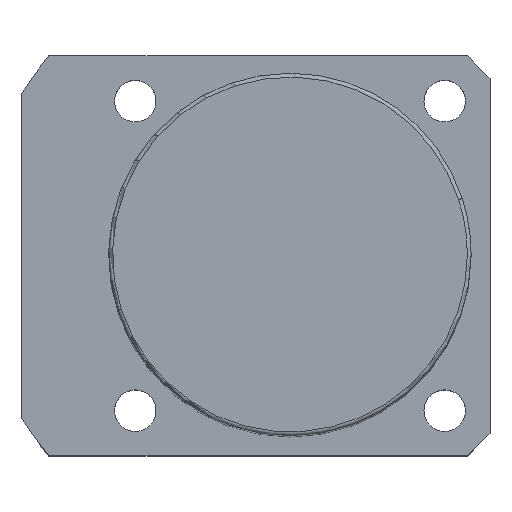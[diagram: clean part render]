
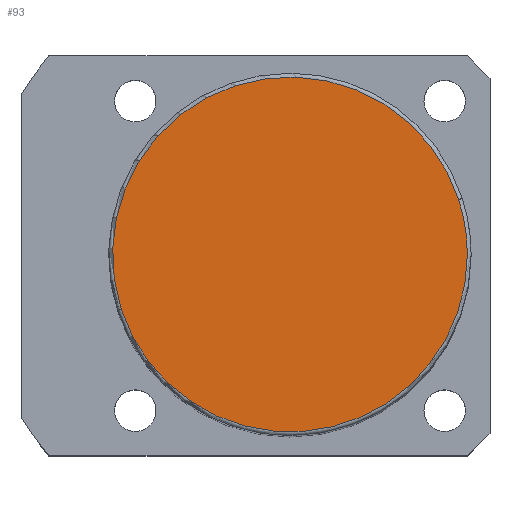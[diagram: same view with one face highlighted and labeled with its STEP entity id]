
A CAD part, top view. The second image highlights one B-rep face of the part: STEP entity #93.
In plain terms, the highlighted planar face has unit normal (0, 0, 1).
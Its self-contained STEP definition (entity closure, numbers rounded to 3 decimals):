
#16=CARTESIAN_POINT('',(22.35,7.262,119.0));
#17=VERTEX_POINT('',#16);
#45=CARTESIAN_POINT('',(-22.35,-7.262,119.0));
#46=VERTEX_POINT('',#45);
#54=CARTESIAN_POINT('',(0.0,0.0,119.0));
#55=DIRECTION('',(0.0,0.0,1.0));
#56=DIRECTION('',(1.0,0.0,0.0));
#57=AXIS2_PLACEMENT_3D('',#54,#55,#56);
#58=CIRCLE('',#57,23.5);
#59=EDGE_CURVE('no 890',#17,#46,#58,.T.);
#69=CARTESIAN_POINT('',(23.5,0.0,119.0));
#70=VERTEX_POINT('',#69);
#71=CARTESIAN_POINT('',(0.0,0.0,119.0));
#72=DIRECTION('',(0.0,0.0,1.0));
#73=DIRECTION('',(1.0,0.0,0.0));
#74=AXIS2_PLACEMENT_3D('',#71,#72,#73);
#75=CIRCLE('',#74,23.5);
#76=EDGE_CURVE('no 899',#70,#17,#75,.T.);
#77=ORIENTED_EDGE('',*,*,#76,.T.);
#78=ORIENTED_EDGE('',*,*,#59,.T.);
#79=CARTESIAN_POINT('',(0.0,0.0,119.0));
#80=DIRECTION('',(0.0,0.0,1.0));
#81=DIRECTION('',(1.0,0.0,0.0));
#82=AXIS2_PLACEMENT_3D('',#79,#80,#81);
#83=CIRCLE('',#82,23.5);
#84=EDGE_CURVE('no 905',#46,#70,#83,.T.);
#85=ORIENTED_EDGE('',*,*,#84,.T.);
#86=EDGE_LOOP('',(#77,#78,#85));
#87=FACE_OUTER_BOUND('',#86,.T.);
#88=CARTESIAN_POINT('',(0.0,0.0,119.0));
#89=DIRECTION('',(0.0,0.0,1.0));
#90=DIRECTION('',(1.0,0.0,0.0));
#91=AXIS2_PLACEMENT_3D('',#88,#89,#90);
#92=PLANE('',#91);
#93=ADVANCED_FACE('no 892',(#87),#92,.T.);
